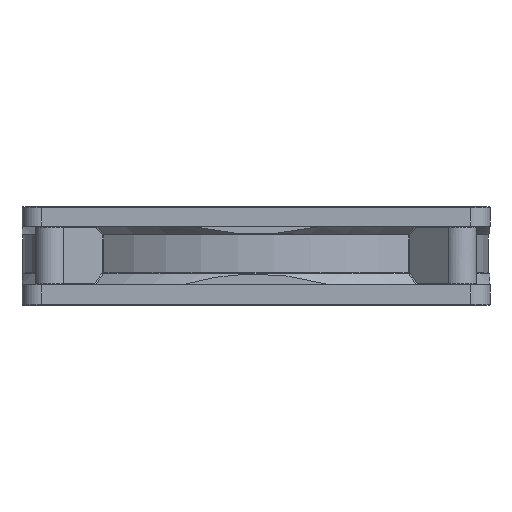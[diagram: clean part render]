
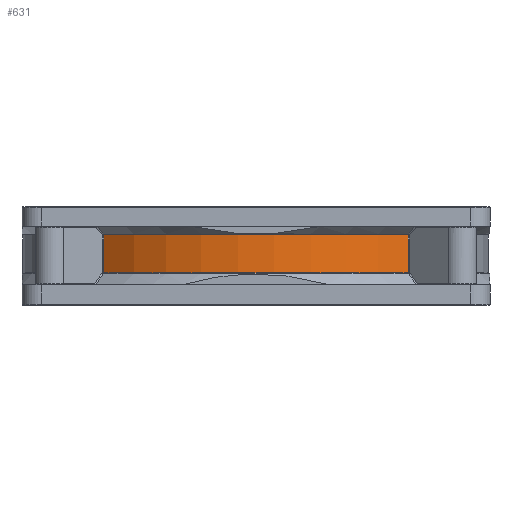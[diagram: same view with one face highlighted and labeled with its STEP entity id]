
A CAD part, front view. The second image highlights one B-rep face of the part: STEP entity #631.
In plain terms, the highlighted cylindrical face has radius 59.75 mm (diameter 119.5 mm), a partial arc.
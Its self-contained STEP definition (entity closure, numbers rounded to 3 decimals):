
#631 = ADVANCED_FACE ( 'NONE', ( #66019 ), #14443, .T. ) ;
#3618 = LINE ( 'NONE', #33623, #24940 ) ;
#4669 = CARTESIAN_POINT ( 'NONE',  ( 39.003, -45.264, 17.16 ) ) ;
#9148 = EDGE_CURVE ( 'NONE', #24670, #14972, #3618, .T. ) ;
#10574 = ORIENTED_EDGE ( 'NONE', *, *, #60486, .T. ) ;
#10748 = ORIENTED_EDGE ( 'NONE', *, *, #56003, .T. ) ;
#12922 = DIRECTION ( 'NONE',  ( -1., 0., 0. ) ) ;
#13268 = DIRECTION ( 'NONE',  ( 0., 0., -1. ) ) ;
#13296 = DIRECTION ( 'NONE',  ( 0., 0., 1. ) ) ;
#14443 = CYLINDRICAL_SURFACE ( 'NONE', #76131, 59.75 ) ;
#14972 = VERTEX_POINT ( 'NONE', #36520 ) ;
#15400 = CIRCLE ( 'NONE', #35096, 59.75 ) ;
#19474 = EDGE_LOOP ( 'NONE', ( #10748, #53218, #35213, #10574 ) ) ;
#20142 = AXIS2_PLACEMENT_3D ( 'NONE', #63816, #13268, #64188 ) ;
#24670 = VERTEX_POINT ( 'NONE', #49558 ) ;
#24940 = VECTOR ( 'NONE', #73269, 1000. ) ;
#26274 = EDGE_CURVE ( 'NONE', #14972, #71896, #15400, .T. ) ;
#30236 = CARTESIAN_POINT ( 'NONE',  ( 0., 0., 79.341 ) ) ;
#32550 = DIRECTION ( 'NONE',  ( 0., 0., 1. ) ) ;
#33623 = CARTESIAN_POINT ( 'NONE',  ( -39.003, -45.264, 79.341 ) ) ;
#35096 = AXIS2_PLACEMENT_3D ( 'NONE', #38693, #44105, #67538 ) ;
#35213 = ORIENTED_EDGE ( 'NONE', *, *, #26274, .T. ) ;
#36520 = CARTESIAN_POINT ( 'NONE',  ( -39.003, -45.264, 7.427 ) ) ;
#38693 = CARTESIAN_POINT ( 'NONE',  ( 0., 0., 7.427 ) ) ;
#43509 = VECTOR ( 'NONE', #32550, 1000. ) ;
#44105 = DIRECTION ( 'NONE',  ( 0., 0., 1. ) ) ;
#44110 = LINE ( 'NONE', #44475, #43509 ) ;
#44475 = CARTESIAN_POINT ( 'NONE',  ( 39.003, -45.264, 79.341 ) ) ;
#49558 = CARTESIAN_POINT ( 'NONE',  ( -39.003, -45.264, 17.16 ) ) ;
#53218 = ORIENTED_EDGE ( 'NONE', *, *, #9148, .T. ) ;
#56003 = EDGE_CURVE ( 'NONE', #70456, #24670, #74200, .T. ) ;
#56070 = CARTESIAN_POINT ( 'NONE',  ( 39.003, -45.264, 7.427 ) ) ;
#60486 = EDGE_CURVE ( 'NONE', #71896, #70456, #44110, .T. ) ;
#63816 = CARTESIAN_POINT ( 'NONE',  ( 0., 0., 17.16 ) ) ;
#64188 = DIRECTION ( 'NONE',  ( -1., 0., 0. ) ) ;
#66019 = FACE_OUTER_BOUND ( 'NONE', #19474, .T. ) ;
#67538 = DIRECTION ( 'NONE',  ( -1., 0., 0. ) ) ;
#70456 = VERTEX_POINT ( 'NONE', #4669 ) ;
#71896 = VERTEX_POINT ( 'NONE', #56070 ) ;
#73269 = DIRECTION ( 'NONE',  ( 0., 0., -1. ) ) ;
#74200 = CIRCLE ( 'NONE', #20142, 59.75 ) ;
#76131 = AXIS2_PLACEMENT_3D ( 'NONE', #30236, #13296, #12922 ) ;
